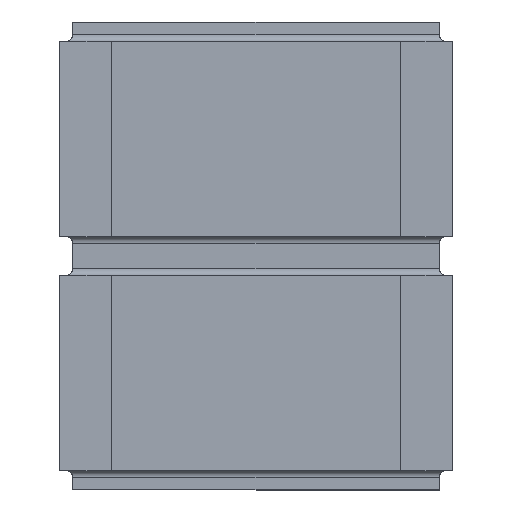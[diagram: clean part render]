
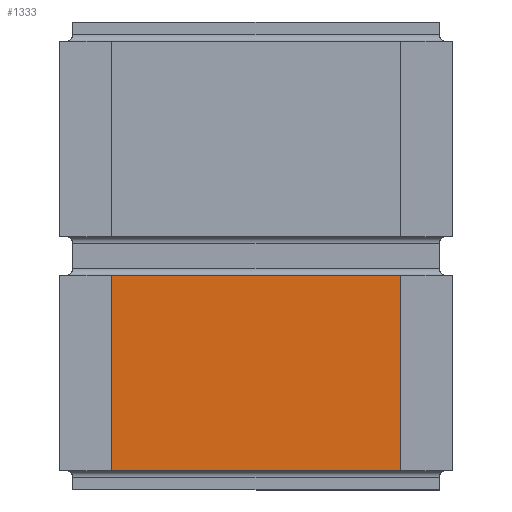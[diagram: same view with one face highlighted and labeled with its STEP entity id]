
A CAD part, top view. The second image highlights one B-rep face of the part: STEP entity #1333.
In plain terms, the highlighted planar face has unit normal (0, 0, 1).
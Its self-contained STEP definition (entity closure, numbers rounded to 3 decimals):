
#34=PLANE('',#1445);
#105=FACE_OUTER_BOUND('',#188,.T.);
#188=EDGE_LOOP('',(#981,#982,#983,#984));
#273=LINE('',#1933,#445);
#283=LINE('',#1951,#455);
#286=LINE('',#1963,#458);
#287=LINE('',#1964,#459);
#445=VECTOR('',#1557,10.);
#455=VECTOR('',#1579,10.);
#458=VECTOR('',#1590,10.);
#459=VECTOR('',#1591,10.);
#635=VERTEX_POINT('',#1930);
#636=VERTEX_POINT('',#1932);
#638=VERTEX_POINT('',#1949);
#643=VERTEX_POINT('',#1962);
#757=EDGE_CURVE('',#635,#636,#273,.T.);
#767=EDGE_CURVE('',#638,#635,#283,.T.);
#772=EDGE_CURVE('',#643,#636,#286,.T.);
#773=EDGE_CURVE('',#643,#638,#287,.T.);
#981=ORIENTED_EDGE('',*,*,#772,.T.);
#982=ORIENTED_EDGE('',*,*,#757,.F.);
#983=ORIENTED_EDGE('',*,*,#767,.F.);
#984=ORIENTED_EDGE('',*,*,#773,.F.);
#1333=ADVANCED_FACE('',(#105),#34,.T.);
#1445=AXIS2_PLACEMENT_3D('',#1961,#1588,#1589);
#1557=DIRECTION('',(-1.,0.,0.));
#1579=DIRECTION('',(0.,-1.,0.));
#1588=DIRECTION('center_axis',(0.,0.,1.));
#1589=DIRECTION('ref_axis',(1.,0.,0.));
#1590=DIRECTION('',(0.,-1.,0.));
#1591=DIRECTION('',(1.,0.,0.));
#1930=CARTESIAN_POINT('',(3.055,0.15,0.495));
#1932=CARTESIAN_POINT('',(0.005,0.15,0.495));
#1933=CARTESIAN_POINT('',(3.055,0.15,0.495));
#1949=CARTESIAN_POINT('',(3.055,1.675,0.495));
#1951=CARTESIAN_POINT('',(3.055,1.675,0.495));
#1961=CARTESIAN_POINT('Origin',(1.53,1.675,0.495));
#1962=CARTESIAN_POINT('',(0.005,1.675,0.495));
#1963=CARTESIAN_POINT('',(0.005,1.675,0.495));
#1964=CARTESIAN_POINT('',(0.005,1.675,0.495));
